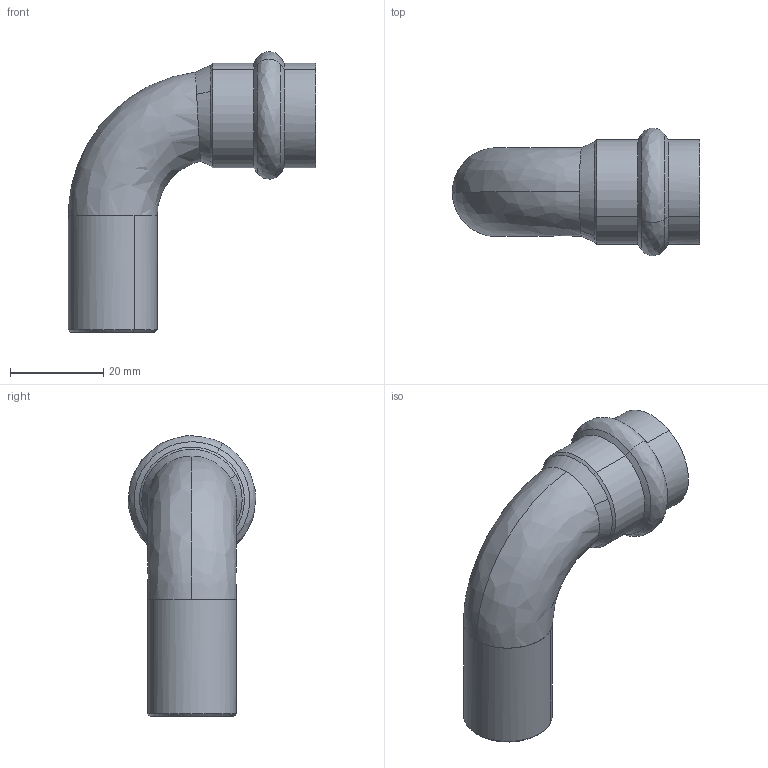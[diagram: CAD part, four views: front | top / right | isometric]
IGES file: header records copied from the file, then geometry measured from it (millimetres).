
Start section: 3D InterOp IGES (Version 25 0 1), Spatial Corp. Copyright (c) 1999-2007.
Global section: file name: pim0004435.igs; native system: Spatial Corp.; preprocessor: 3D InterOp ACIS/IGES; author: Cad-Pim; organization: TransMagic, Inc.; date: 20150430.071833; units: millimetre
Bounding box: 53.02 x 27.36 x 60.18 mm (x, y, z)
Volume: 20246.4 mm3; surface area: 7327.2 mm2
Topology: 1 solids, 1 shells, 27 faces, 75 edges, 51 vertices
Faces by surface type: cone 10, bspline 9, cylinder 8
